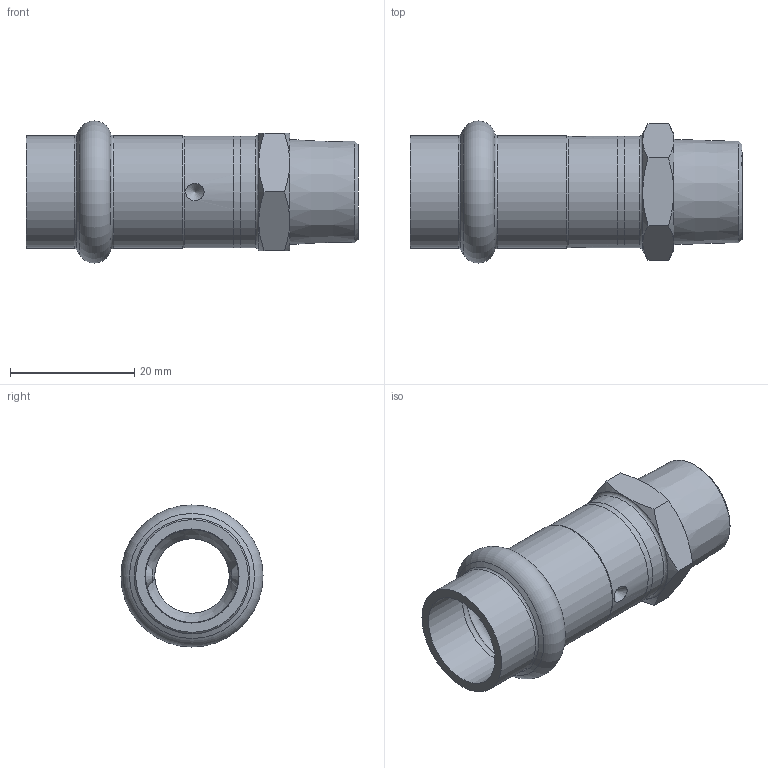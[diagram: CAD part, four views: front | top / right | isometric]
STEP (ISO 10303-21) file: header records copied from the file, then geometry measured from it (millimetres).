
FILE_DESCRIPTION((''),'2;1');
FILE_NAME('G:\Nirosan-Schmiedefeld\Technics\CAD\001 Serie 9.000\015\69243G1538H(2).stp','2018-08-28T08:27:25',('herberg'),(''),'Autodesk Inventor 2009','Autodesk Inventor 2009','');
FILE_SCHEMA(('AUTOMOTIVE_DESIGN { 1 0 10303 214 1 1 1 1 }'));
Length unit declared in the file: millimetre
Products named in the file (3): 69243G1538H(2); 69HM1518P(0); 69ATAG15R38P(0)
Assembly tree (2 placements, depth 2):
  69243G1538H(2)
    69HM1518P(0)
    69ATAG15R38P(0)
Bounding box: 53.5 x 22.9 x 22.9 mm (x, y, z)
Volume: 5265.1 mm3; surface area: 6349.1 mm2
Topology: 2 solids, 2 shells, 52 faces, 118 edges, 70 vertices
Faces by surface type: cone 23, plane 11, cylinder 9, bspline 5, sphere 2, torus 2
Full cylindrical faces by diameter (mm): 12 x1, 15 x2, 15.15 x2, 18 x2, 18.15 x2
Entity records: 1703 total; most frequent: CARTESIAN_POINT 704, DIRECTION 196, ORIENTED_EDGE 162, AXIS2_PLACEMENT_3D 95, EDGE_LOOP 84, EDGE_CURVE 81, VERTEX_POINT 61, FACE_OUTER_BOUND 52
